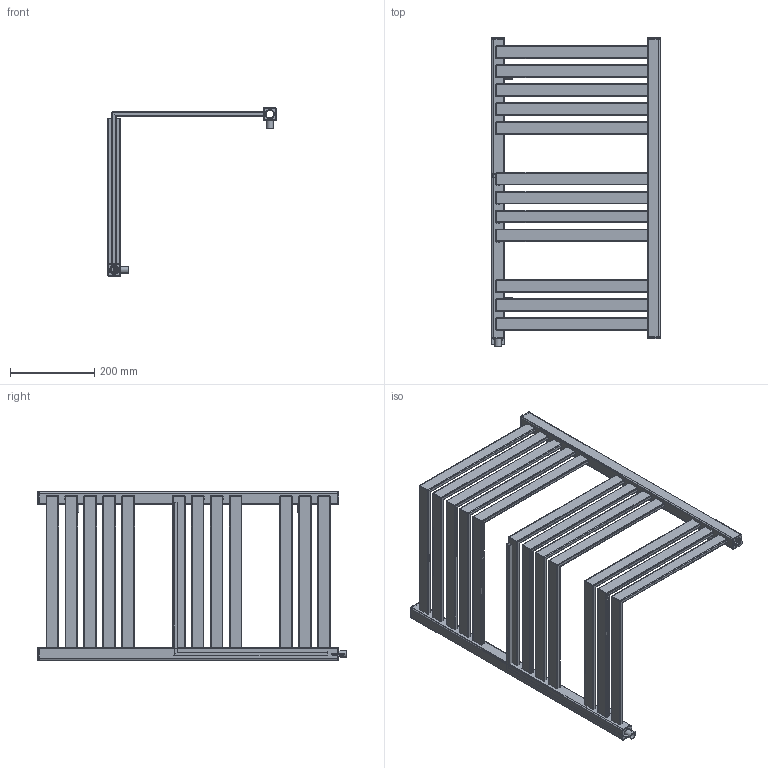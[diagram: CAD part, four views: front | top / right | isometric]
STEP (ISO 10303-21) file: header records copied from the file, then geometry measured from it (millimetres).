
FILE_DESCRIPTION( ( 'Unknown' ), '1' );
FILE_NAME( 'D:/Alplast sp. j/Witryna zespoBu - Projekty/Archiwum/Grzejniki Archiwum/Projekty/DESIGN PROGRAM/CORNER ALFA I BETA/CORNER ALFA 2.stp', 'Unknown', ( 'Unknown' ), ( 'Unknown' ), 'PSStep 10.1', 'Unknown', ' ' );
FILE_SCHEMA( ( 'AUTOMOTIVE_DESIGN { 1 0 10303 214 1 1 1 1 }' ) );
Length unit declared in the file: millimetre
Products named in the file (6): kana³ po giêciu; Assem1; kana³y 30x10 czêœæ do giêcia; AK2-N; zaslepka kwadrat otwor; mocowanie
Bounding box: 400 x 733 x 400 mm (x, y, z)
Volume: 1268458.7 mm3; surface area: 1888411.4 mm2
Topology: 40 solids, 40 shells, 1076 faces, 2985 edges, 1972 vertices
Faces by surface type: plane 595, cylinder 471, torus 10
Full cylindrical faces by diameter (mm): 14 x5, 16 x5, 18.631 x5, 23 x5
Entity records: 6914 total; most frequent: DIRECTION 991, CARTESIAN_POINT 970, ORIENTED_EDGE 910, EDGE_CURVE 455, AXIS2_PLACEMENT_3D 349, VERTEX_POINT 306, LINE 293, VECTOR 293
